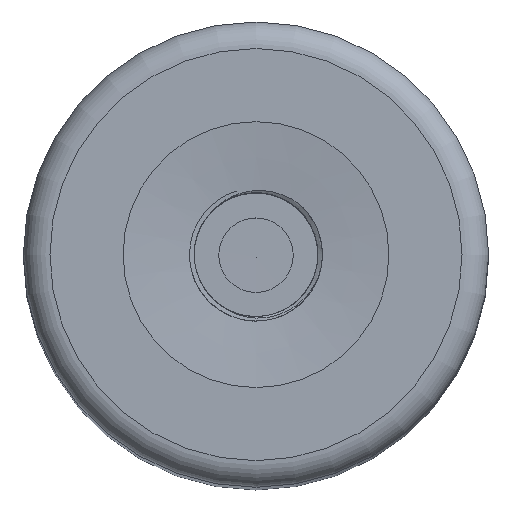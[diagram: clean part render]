
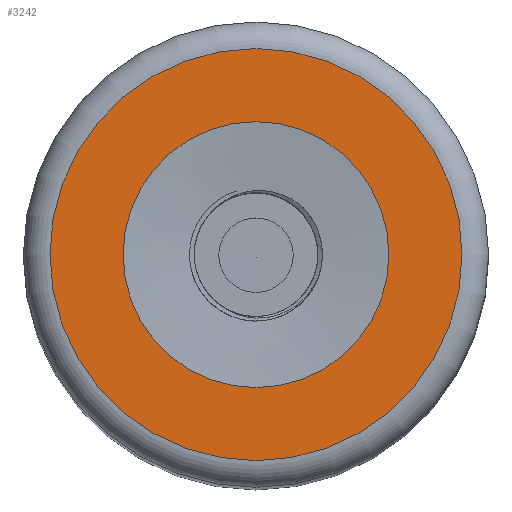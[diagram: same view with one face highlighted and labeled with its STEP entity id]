
A CAD part, top view. The second image highlights one B-rep face of the part: STEP entity #3242.
In plain terms, the highlighted planar face has unit normal (0, 0, 1).
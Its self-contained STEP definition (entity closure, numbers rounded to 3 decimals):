
#70=FACE_BOUND('',#574,.T.);
#92=PLANE('',#3508);
#354=FACE_OUTER_BOUND('',#573,.T.);
#573=EDGE_LOOP('',(#2398));
#574=EDGE_LOOP('',(#2399));
#758=CIRCLE('',#3491,19.685);
#767=CIRCLE('',#3509,12.7);
#1392=VERTEX_POINT('',#7408);
#1401=VERTEX_POINT('',#7652);
#1762=EDGE_CURVE('',#1392,#1392,#758,.T.);
#1779=EDGE_CURVE('',#1401,#1401,#767,.T.);
#2398=ORIENTED_EDGE('',*,*,#1762,.F.);
#2399=ORIENTED_EDGE('',*,*,#1779,.T.);
#3242=ADVANCED_FACE('',(#354,#70),#92,.T.);
#3491=AXIS2_PLACEMENT_3D('',#7410,#4028,#4029);
#3508=AXIS2_PLACEMENT_3D('',#7651,#4062,#4063);
#3509=AXIS2_PLACEMENT_3D('',#7653,#4064,#4065);
#4028=DIRECTION('center_axis',(0.,0.,-1.));
#4029=DIRECTION('ref_axis',(1.,0.,0.));
#4062=DIRECTION('center_axis',(0.,0.,1.));
#4063=DIRECTION('ref_axis',(1.,0.,0.));
#4064=DIRECTION('center_axis',(0.,0.,-1.));
#4065=DIRECTION('ref_axis',(1.,0.,0.));
#7408=CARTESIAN_POINT('',(19.685,0.,152.4));
#7410=CARTESIAN_POINT('Origin',(0.,0.,152.4));
#7651=CARTESIAN_POINT('Origin',(0.,19.685,152.4));
#7652=CARTESIAN_POINT('',(0.,-12.7,152.4));
#7653=CARTESIAN_POINT('Origin',(0.,0.,152.4));
